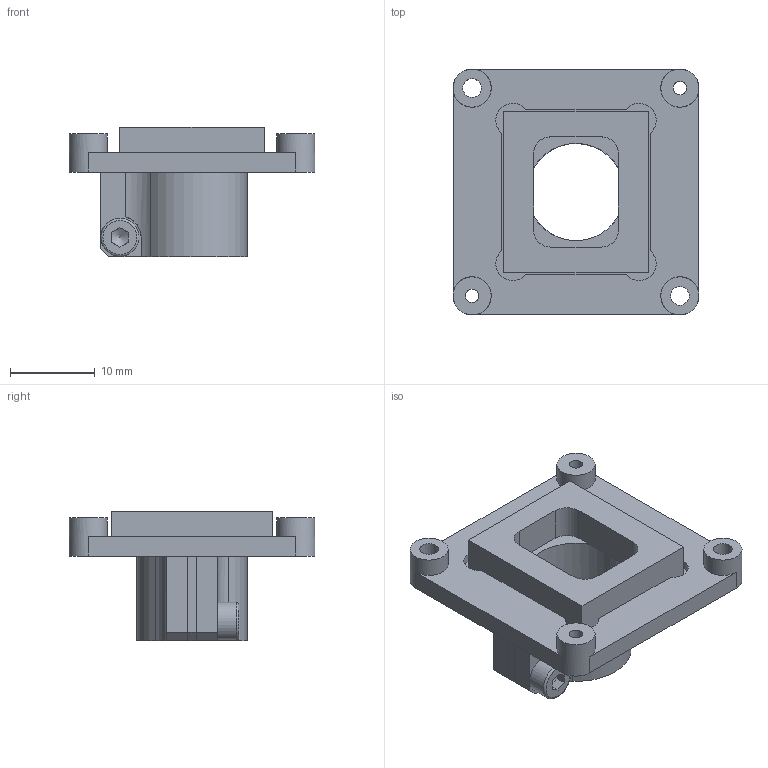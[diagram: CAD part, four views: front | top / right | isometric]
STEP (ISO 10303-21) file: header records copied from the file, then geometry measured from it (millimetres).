
FILE_DESCRIPTION(/* description */ (''),/* implementation_level */ '2;1');
FILE_NAME(/* name */ 'KSM_228-17-0-10-01_ZB MLH10 (Schraube+Silikon+Seal 4).stp',/* time_stamp */ '2026-01-20T10:10:48+01:00',/* author */ ('Westermann'),/* organization */ ('TIS/ Germany'),/* preprocessor_version */ 'ST-DEVELOPER v20',/* originating_system */ 'Autodesk Inventor 2025',/* authorisation */ '520025 mm^3');
FILE_SCHEMA (('AUTOMOTIVE_DESIGN { 1 0 10303 214 3 1 1 }'));
Length unit declared in the file: millimetre
Products named in the file (3): KSM_228-17-0-10-01_ZB MLH10 (Schraube+Silikon+Dichtkissen4); KSM1_228-17-0-10-01_ZB MLH10 (Schraube+Silikon); 228-22-0-00-02-a_Dichtkissen 4mm
Assembly tree (2 placements, depth 2):
  KSM_228-17-0-10-01_ZB MLH10 (Schraube+Silikon+Dichtkissen4)
    KSM1_228-17-0-10-01_ZB MLH10 (Schraube+Silikon)
    228-22-0-00-02-a_Dichtkissen 4mm
Bounding box: 29 x 29 x 15.3 mm (x, y, z)
Volume: 2921.6 mm3; surface area: 3808.8 mm2
Topology: 2 solids, 2 shells, 73 faces, 196 edges, 129 vertices
Faces by surface type: plane 46, cylinder 24, cone 2, torus 1
Full cylindrical faces by diameter (mm): 1.567 x2, 2.013 x1, 2.2 x2, 4.5 x5, 11.459 x1
Entity records: 2527 total; most frequent: CARTESIAN_POINT 444, DIRECTION 402, ORIENTED_EDGE 390, EDGE_CURVE 195, AXIS2_PLACEMENT_3D 139, VERTEX_POINT 129, LINE 124, VECTOR 124
